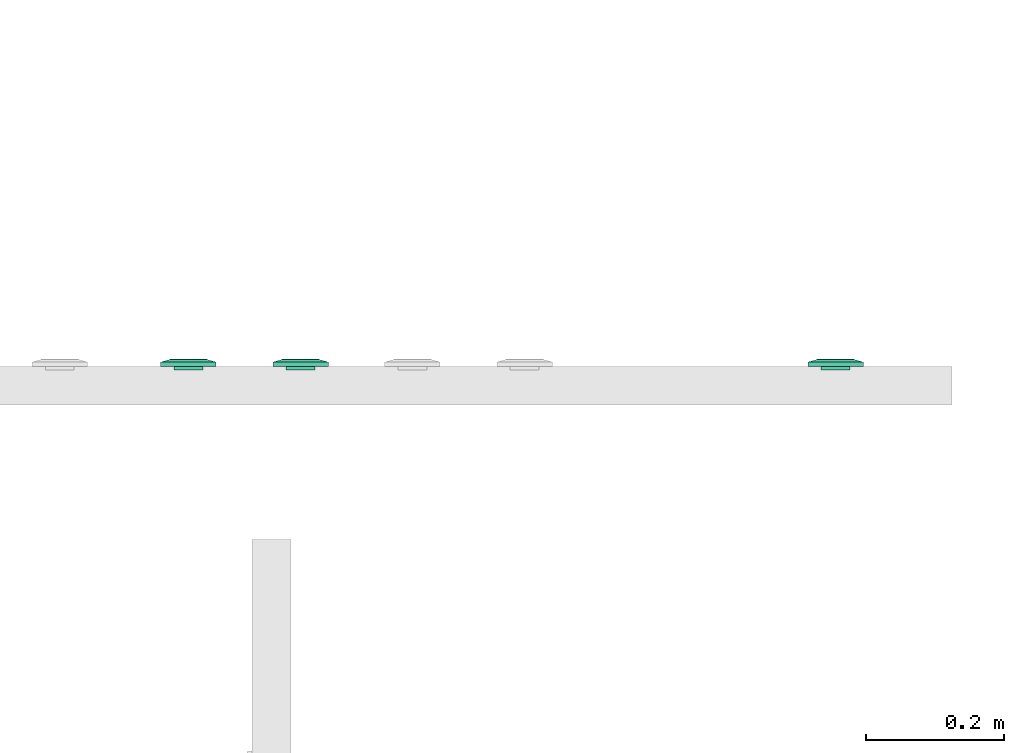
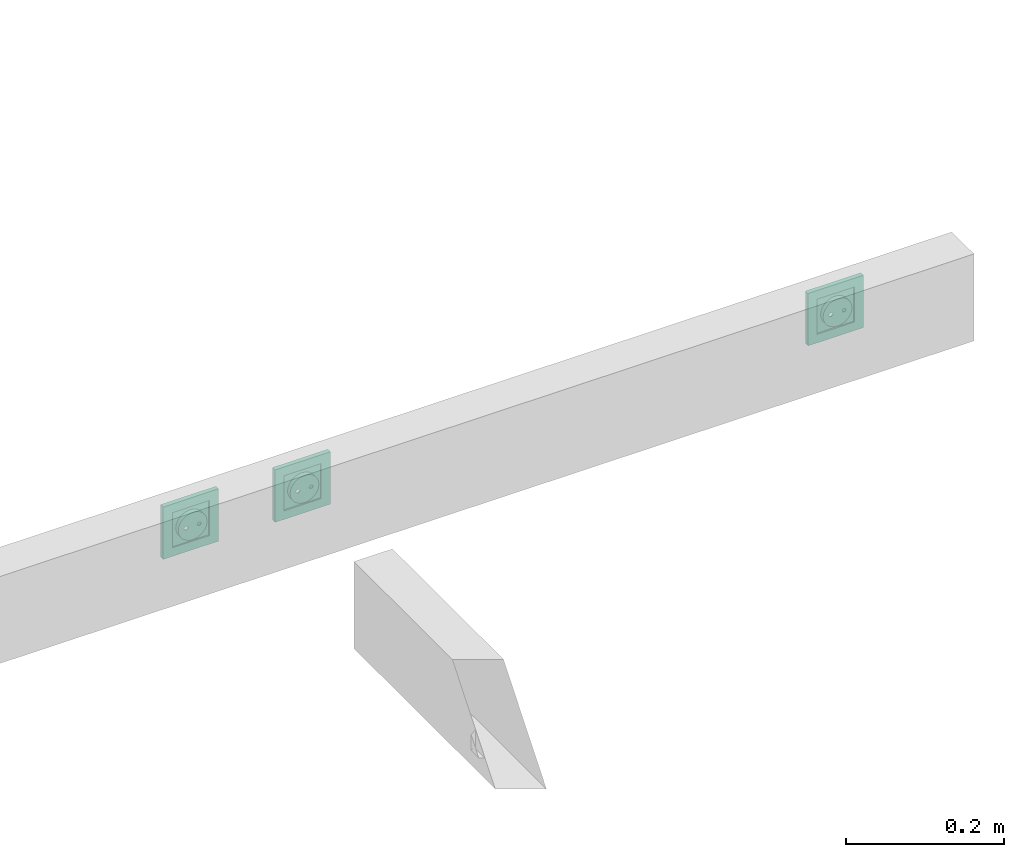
# One storey, part 31 of 166: 3 flow terminals.
"""IFC2X3 building model written with IfcOpenShell, lengths in metres."""

import ifcopenshell
import ifcopenshell.guid

model = None  # the IFC model being written
_history = None  # IfcOwnerHistory: only IFC2X3 demands one
_inside = {}  # id of a spatial element -> (the spatial element, [elements in it])
_under = {}  # id of a project, library or spatial element -> (it, [spatial elements below it])
_declared = {}  # id of a project -> (the project, [libraries it declares])
_typed = {}  # id of a type object -> (the type object, [elements of that type])
_made_of = {}  # id of a material, layer set ... -> (it, [elements and type objects made of it])


def new_model(schema):
    """Start an empty IFC model of exactly this schema.

    Asked for "IFC4X3", IfcOpenShell would pick the latest addendum, in which some entities
    have other attributes; the version numbers below select the first issue.
    IFC2X3 requires an IfcOwnerHistory on every rooted entity: one is made here for all.
    """
    global model, _history
    if schema == "IFC4X3":
        model = ifcopenshell.file(schema_version=(4, 3, 0, 0))
    else:
        model = ifcopenshell.file(schema=schema)
    _inside.clear()
    _under.clear()
    _declared.clear()
    _typed.clear()
    _made_of.clear()
    _history = None
    if model.schema == "IFC2X3":
        org = make("IfcOrganization", Name="unknown")
        user = make(
            "IfcPersonAndOrganization",
            ThePerson=make("IfcPerson", FamilyName="unknown"),
            TheOrganization=org,
        )
        app = make(
            "IfcApplication",
            ApplicationDeveloper=org,
            Version="unknown",
            ApplicationFullName="unknown",
            ApplicationIdentifier="unknown",
        )
        _history = make(
            "IfcOwnerHistory",
            OwningUser=user,
            OwningApplication=app,
            ChangeAction="ADDED",
            CreationDate=0,
        )
    return model


def make(cls, **values):
    """One entity of the class cls with the attributes given. An attribute that is None is left unset."""
    return model.create_entity(
        cls, **{name: value for name, value in values.items() if value is not None}
    )


def entity(cls, *values):
    """Any entity or typed value of the class cls, its attributes in the order of the schema. None: left unset."""
    e = model.create_entity(cls)
    for i, value in enumerate(values):
        if value is not None:
            e[i] = value
    return e


def rooted(cls, **values):
    """An entity with a GlobalId (a new one), such as an element, a storey or a relation."""
    return make(cls, GlobalId=ifcopenshell.guid.new(), OwnerHistory=_history, **values)


def si_unit(unit_type, name, prefix=None):
    """IfcSIUnit, for example si_unit("LENGTHUNIT", "METRE", prefix="MILLI")."""
    return make("IfcSIUnit", UnitType=unit_type, Prefix=prefix, Name=name)


def converted_unit(unit_type, name, factor, base, dimensions=None, offset=None):
    """IfcConversionBasedUnit, such as the inch: factor (a typed value) times the base unit."""
    return make(
        "IfcConversionBasedUnit"
        if offset is None
        else "IfcConversionBasedUnitWithOffset",
        ConversionOffset=offset,
        Dimensions=None
        if dimensions is None
        else entity("IfcDimensionalExponents", *dimensions),
        UnitType=unit_type,
        Name=name,
        ConversionFactor=make(
            "IfcMeasureWithUnit", ValueComponent=factor, UnitComponent=base
        ),
    )


def derived_unit(unit_type, elements):
    """IfcDerivedUnit: a product of units, each with its exponent."""
    return make(
        "IfcDerivedUnit",
        Elements=[
            make("IfcDerivedUnitElement", Unit=unit, Exponent=power)
            for unit, power in elements
        ],
        UnitType=unit_type,
    )


def assignment(units):
    """IfcUnitAssignment: the units of a project."""
    return None if units is None else make("IfcUnitAssignment", Units=units)


def point(xyz):
    """IfcCartesianPoint."""
    return None if xyz is None else make("IfcCartesianPoint", Coordinates=xyz)


def direction(xyz):
    """IfcDirection."""
    return None if xyz is None else make("IfcDirection", DirectionRatios=xyz)


def frame(location, z_axis=None, x_axis=None):
    """IfcAxis2Placement3D, a coordinate frame: its origin and axes. An axis left out is left unset."""
    return make(
        "IfcAxis2Placement3D",
        Location=point(location),
        Axis=direction(z_axis),
        RefDirection=direction(x_axis),
    )


def origin():
    """The frame at (0, 0, 0) with its axes left unset."""
    return frame((0.0, 0.0, 0.0))


def place(relative_to, where):
    """IfcLocalPlacement: puts the frame where relative to a parent placement (None: the world)."""
    return make(
        "IfcLocalPlacement", PlacementRelTo=relative_to, RelativePlacement=where
    )


def context(
    kind, dimensions, precision=None, world=None, true_north=None, identifier=None
):
    """IfcGeometricRepresentationContext, for example the 3D "Model" context."""
    return make(
        "IfcGeometricRepresentationContext",
        ContextIdentifier=identifier,
        ContextType=kind,
        CoordinateSpaceDimension=dimensions,
        Precision=precision,
        WorldCoordinateSystem=world,
        TrueNorth=true_north,
    )


def subcontext(parent, identifier, kind, view, scale=None):
    """IfcGeometricRepresentationSubContext, for example "Body" below "Model"."""
    return make(
        "IfcGeometricRepresentationSubContext",
        ContextIdentifier=identifier,
        ContextType=kind,
        ParentContext=parent,
        TargetScale=scale,
        TargetView=view,
    )


def project(units=None, contexts=None):
    """IfcProject with its units and contexts."""
    return rooted(
        "IfcProject",
        Name="project",
        RepresentationContexts=contexts,
        UnitsInContext=assignment(units),
    )


def spatial(cls, under=None, at=None, **own):
    """A site, building, storey or space (cls), placed at a placement, below another one or the project."""
    s = rooted(cls, ObjectPlacement=at, **own)
    if under is not None:
        _under.setdefault(under.id(), (under, []))[1].append(s)
    return s


def faces_of(points, faces, orient=None, outer=None):
    """IfcFace entities. A face is a list of loops; a loop is a list of indices into points, from 0.

    orient and outer hold one flag for each loop. By default every Orientation is true, the
    first loop of a face is its IfcFaceOuterBound and the others are IfcFaceBound.
    """
    made = []
    for i, loops in enumerate(faces):
        bounds = []
        for j, loop in enumerate(loops):
            is_outer = j == 0 if outer is None else outer[i][j]
            bounds.append(
                make(
                    "IfcFaceOuterBound" if is_outer else "IfcFaceBound",
                    Bound=make("IfcPolyLoop", Polygon=[points[k] for k in loop]),
                    Orientation=True if orient is None else orient[i][j],
                )
            )
        made.append(make("IfcFace", Bounds=bounds))
    return made


def face_set(faces, orient=None, outer=None):
    """The faces of one IfcConnectedFaceSet. surface_model builds it on its shared points."""
    return ("IfcConnectedFaceSet", faces, orient, outer)


def surface_model(cls, points, shells):
    """IfcFaceBasedSurfaceModel or IfcShellBasedSurfaceModel (cls): surfaces that need not close."""
    shared = [point(p) for p in points]
    made = [make(c, CfsFaces=faces_of(shared, fs, o, b)) for c, fs, o, b in shells]
    if cls == "IfcFaceBasedSurfaceModel":
        return make(cls, FbsmFaces=made)
    return make(cls, SbsmBoundary=made)


def shape(context_of_items, identifier, shape_type, items):
    """IfcShapeRepresentation: the items that make up one representation, for example the "Body"."""
    return make(
        "IfcShapeRepresentation",
        ContextOfItems=context_of_items,
        RepresentationIdentifier=identifier,
        RepresentationType=shape_type,
        Items=items,
    )


def source(mapping_origin, context_of_items, identifier, shape_type, items):
    """IfcRepresentationMap: a shape defined once, which mapped items show again and again."""
    return make(
        "IfcRepresentationMap",
        MappingOrigin=mapping_origin,
        MappedRepresentation=shape(context_of_items, identifier, shape_type, items),
    )


def transform(
    local_origin,
    x_axis=None,
    y_axis=None,
    z_axis=None,
    scale=None,
    scale2=None,
    scale3=None,
    uniform=True,
):
    """IfcCartesianTransformationOperator3D, or its non-uniform kind. x_axis, y_axis, z_axis: its Axis1, 2, 3."""
    if uniform:
        return make(
            "IfcCartesianTransformationOperator3D",
            Axis1=direction(x_axis),
            Axis2=direction(y_axis),
            LocalOrigin=point(local_origin),
            Scale=scale,
            Axis3=direction(z_axis),
        )
    return make(
        "IfcCartesianTransformationOperator3DnonUniform",
        Axis1=direction(x_axis),
        Axis2=direction(y_axis),
        LocalOrigin=point(local_origin),
        Scale=scale,
        Axis3=direction(z_axis),
        Scale2=scale2,
        Scale3=scale3,
    )


def mapped(mapping_source, mapping_target):
    """IfcMappedItem: shows the shape of a source again, moved by a transform."""
    return make(
        "IfcMappedItem", MappingSource=mapping_source, MappingTarget=mapping_target
    )


def made_of(thing, what):
    """Note that an element or type object is made of a material, layer set ...; save() writes the relation."""
    if what is not None:
        _made_of.setdefault(what.id(), (what, []))[1].append(thing)
    return thing


def type_object(cls, material=None, **own):
    """A type object (cls), such as IfcWallType, which elements share."""
    return made_of(rooted(cls, **own), material)


def type_shapes(of_type, sources):
    """Give a type object the sources (RepresentationMaps) that its elements show as mapped items."""
    of_type.RepresentationMaps = sources


def element(
    cls,
    number,
    at=None,
    inside=None,
    cuts=None,
    type_object=None,
    material=None,
    context=None,
    identifier="Body",
    shape_type=None,
    held_by="IfcProductDefinitionShape",
    body=None,
    shapes=None,
    **own,
):
    """One element of the class cls, such as IfcWall. Its Tag is "e" and its number.

    at: its placement. inside: the storey or other place that contains it. cuts: it is an
    opening in that element (IfcRelVoidsElement). A single representation is given by context,
    identifier, shape_type and body (its items); several are given by shapes. held_by: the class
    of the entity that holds the representations. save() writes the other relations.
    """
    e = rooted(cls, Tag="e%d" % number, ObjectPlacement=at, **own)
    if body is not None:
        shapes = [shape(context, identifier, shape_type, body)]
    if shapes is not None:
        e.Representation = make(held_by, Representations=shapes)
    if inside is not None:
        _inside.setdefault(inside.id(), (inside, []))[1].append(e)
    if cuts is not None:
        rooted(
            "IfcRelVoidsElement", RelatingBuildingElement=cuts, RelatedOpeningElement=e
        )
    if type_object is not None:
        _typed.setdefault(type_object.id(), (type_object, []))[1].append(e)
    return made_of(e, material)


def aggregate(whole, parts):
    """IfcRelAggregates: a whole, such as a stair, and the parts it consists of."""
    return rooted("IfcRelAggregates", RelatingObject=whole, RelatedObjects=parts)


def save(model, path):
    """Write the relations noted so far, then the file.

    IfcRelAggregates (storeys below a building ...), IfcRelContainedInSpatialStructure (elements
    in a storey), IfcRelDefinesByType, IfcRelAssociatesMaterial and IfcRelDeclares: one each for
    every whole, place, type object, material and project.
    """
    for whole, parts in _under.values():
        aggregate(whole, parts)
    for where, things in _inside.values():
        rooted(
            "IfcRelContainedInSpatialStructure",
            RelatedElements=things,
            RelatingStructure=where,
        )
    for kind, things in _typed.values():
        rooted("IfcRelDefinesByType", RelatedObjects=things, RelatingType=kind)
    for what, things in _made_of.values():
        rooted("IfcRelAssociatesMaterial", RelatedObjects=things, RelatingMaterial=what)
    for by, libraries in _declared.values():
        rooted("IfcRelDeclares", RelatingContext=by, RelatedDefinitions=libraries)
    model.write(path)


model = new_model("IFC2X3")

# Units and contexts
model_context = context("Model", 3, precision=1e-05, world=origin(), true_north=direction((6.12303176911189e-17, 1.0)))
body_context = subcontext(model_context, "Body", "Model", "MODEL_VIEW")
ifc_project = project(units=[si_unit("LENGTHUNIT", "METRE"), si_unit("AREAUNIT", "SQUARE_METRE"), si_unit("VOLUMEUNIT", "CUBIC_METRE"), converted_unit("PLANEANGLEUNIT", "DEGREE", entity("IfcRatioMeasure", 0.0174532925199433), si_unit("PLANEANGLEUNIT", "RADIAN"), dimensions=[0, 0, 0, 0, 0, 0, 0]), si_unit("MASSUNIT", "GRAM", prefix="KILO"), derived_unit("MASSDENSITYUNIT", [(si_unit("MASSUNIT", "GRAM", prefix="KILO"), 1), (si_unit("LENGTHUNIT", "METRE"), -3)]), si_unit("TIMEUNIT", "SECOND"), si_unit("FREQUENCYUNIT", "HERTZ"), si_unit("THERMODYNAMICTEMPERATUREUNIT", "DEGREE_CELSIUS"), derived_unit("THERMALTRANSMITTANCEUNIT", [(si_unit("MASSUNIT", "GRAM", prefix="KILO"), 1), (si_unit("THERMODYNAMICTEMPERATUREUNIT", "KELVIN"), -1), (si_unit("TIMEUNIT", "SECOND"), -3)]), derived_unit("VOLUMETRICFLOWRATEUNIT", [(si_unit("LENGTHUNIT", "METRE"), 3), (si_unit("TIMEUNIT", "SECOND"), -1)]), si_unit("ELECTRICCURRENTUNIT", "AMPERE"), si_unit("ELECTRICVOLTAGEUNIT", "VOLT"), si_unit("POWERUNIT", "WATT"), si_unit("FORCEUNIT", "NEWTON"), si_unit("ILLUMINANCEUNIT", "LUX"), si_unit("LUMINOUSFLUXUNIT", "LUMEN"), si_unit("LUMINOUSINTENSITYUNIT", "CANDELA"), derived_unit("USERDEFINED", [(si_unit("MASSUNIT", "GRAM", prefix="KILO"), -1), (si_unit("LENGTHUNIT", "METRE"), -2), (si_unit("TIMEUNIT", "SECOND"), 3), (si_unit("LUMINOUSFLUXUNIT", "LUMEN"), 1)]), derived_unit("LINEARVELOCITYUNIT", [(si_unit("LENGTHUNIT", "METRE"), 1), (si_unit("TIMEUNIT", "SECOND"), -1)]), si_unit("PRESSUREUNIT", "PASCAL"), derived_unit("USERDEFINED", [(si_unit("LENGTHUNIT", "METRE"), -2), (si_unit("MASSUNIT", "GRAM", prefix="KILO"), 1), (si_unit("TIMEUNIT", "SECOND"), -2)])], contexts=[model_context])

# Site, building, storey
site_placement = place(None, origin())
site = spatial("IfcSite", under=ifc_project, at=site_placement, Name="Default", CompositionType="ELEMENT")
building_placement = place(site_placement, origin())
building = spatial("IfcBuilding", under=site, at=building_placement, CompositionType="ELEMENT")
storey_placement = place(building_placement, frame((0.0, 0.0, 4.27)))
storey = spatial("IfcBuildingStorey", under=building, at=storey_placement, Name="01", CompositionType="ELEMENT", Elevation=4.27)

# Flow terminals
light_fixture_type = type_object("IfcLightFixtureType", Name="PC IP20", PredefinedType="NOTDEFINED")
shared_shape = source(origin(), body_context, "Body", "SurfaceModel", [
    surface_model("IfcFaceBasedSurfaceModel", [(-0.00225000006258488, 0.0127499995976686, 0.00949633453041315), (0.0, 0.0104999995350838, 0.00949633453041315), (0.0, 0.0115376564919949, 0.0101656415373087), (0.0, 0.0139623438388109, 0.0101656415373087), (0.0, 0.0144589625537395, 0.00984531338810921), (0.0, 0.0121178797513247, 0.0102778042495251), (0.0, 0.0133821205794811, 0.0102778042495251), (0.0, 0.0127499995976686, 0.010399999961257), (0.0, 0.0149999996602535, 0.00949633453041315), (0.00225000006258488, 0.0127499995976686, 0.00949633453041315), (0.0, 0.0110410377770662, 0.00984531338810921), (0.0, 0.0127499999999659, 0.00949633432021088), (0.00225000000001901, 0.0127499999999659, 0.00949633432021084), (0.00217333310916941, 0.0121676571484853, 0.00949633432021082), (0.00194855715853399, 0.0116249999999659, 0.00949633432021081), (0.00159099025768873, 0.0111590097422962, 0.00949633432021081), (0.001125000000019, 0.010801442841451, 0.00949633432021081), (0.00058234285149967, 0.0105766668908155, 0.00949633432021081), (0.0, 0.0104999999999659, 0.00949633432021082), (-0.000582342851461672, 0.0105766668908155, 0.00949633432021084), (-0.001124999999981, 0.010801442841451, 0.00949633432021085), (-0.00159099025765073, 0.0111590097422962, 0.00949633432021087), (-0.00194855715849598, 0.011624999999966, 0.00949633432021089), (-0.0021733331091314, 0.0121676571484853, 0.00949633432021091), (-0.00224999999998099, 0.012749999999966, 0.00949633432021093), (-0.00217333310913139, 0.0133323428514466, 0.00949633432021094), (-0.00194855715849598, 0.013874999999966, 0.00949633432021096), (-0.00159099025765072, 0.0143409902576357, 0.00949633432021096), (-0.00112499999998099, 0.0146985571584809, 0.00949633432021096), (-0.00058234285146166, 0.0149233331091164, 0.00949633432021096), (0.0, 0.0149999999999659, 0.00949633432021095), (0.000582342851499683, 0.0149233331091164, 0.00949633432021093), (0.00112500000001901, 0.0146985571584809, 0.00949633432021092), (0.00159099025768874, 0.0143409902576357, 0.00949633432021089), (0.001948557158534, 0.0138749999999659, 0.00949633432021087), (0.00217333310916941, 0.0133323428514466, 0.00949633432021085), (0.00225000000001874, 0.0127499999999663, -0.00360000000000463), (0.00217333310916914, 0.0121676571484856, -0.00360000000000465), (0.00194855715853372, 0.0116249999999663, -0.00360000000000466), (0.00159099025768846, 0.0111590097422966, -0.00360000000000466), (0.00112500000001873, 0.0108014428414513, -0.00360000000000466), (0.000582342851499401, 0.0105766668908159, -0.00360000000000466), (0.0, 0.0104999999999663, -0.00360000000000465), (-0.000582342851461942, 0.0105766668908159, -0.00360000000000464), (-0.00112499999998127, 0.0108014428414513, -0.00360000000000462), (-0.001590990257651, 0.0111590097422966, -0.0036000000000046), (-0.00194855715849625, 0.0116249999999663, -0.00360000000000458), (-0.00217333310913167, 0.0121676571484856, -0.00360000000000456), (-0.00224999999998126, 0.0127499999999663, -0.00360000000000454), (-0.00217333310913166, 0.013332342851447, -0.00360000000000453), (-0.00194855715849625, 0.0138749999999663, -0.00360000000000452), (-0.00159099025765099, 0.014340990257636, -0.00360000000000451), (-0.00112499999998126, 0.0146985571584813, -0.00360000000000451), (-0.000582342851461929, 0.0149233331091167, -0.00360000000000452), (0.0, 0.0149999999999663, -0.00360000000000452), (0.000582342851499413, 0.0149233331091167, -0.00360000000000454), (0.00112500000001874, 0.0146985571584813, -0.00360000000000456), (0.00159099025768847, 0.014340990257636, -0.00360000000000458), (0.00194855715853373, 0.0138749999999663, -0.0036000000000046), (0.00217333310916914, 0.013332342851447, -0.00360000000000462), (0.0270000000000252, 0.026999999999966, 0.0113999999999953), (-0.0269999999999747, 0.026999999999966, 0.0113999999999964), (-0.0269999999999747, -0.0270000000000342, 0.0113999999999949), (0.0270000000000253, -0.0270000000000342, 0.0113999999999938), (-0.0199999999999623, 0.0, 0.0113999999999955), (-0.0193185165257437, -0.00517638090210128, 0.0113999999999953), (-0.0173205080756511, -0.0100000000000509, 0.0113999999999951), (-0.0141421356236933, -0.0141421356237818, 0.011399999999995), (-0.00999999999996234, -0.0173205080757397, 0.0113999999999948), (-0.00517638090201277, -0.0193185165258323, 0.0113999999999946), (0.0, -0.0200000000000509, 0.0113999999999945), (0.00517638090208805, -0.0193185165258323, 0.0113999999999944), (0.0100000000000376, -0.0173205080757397, 0.0113999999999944), (0.0141421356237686, -0.0141421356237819, 0.0113999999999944), (0.0173205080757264, -0.010000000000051, 0.0113999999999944), (0.0193185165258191, -0.00517638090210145, 0.0113999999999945), (0.0200000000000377, 0.0, 0.0113999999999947), (0.0193185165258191, 0.00517638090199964, 0.0113999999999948), (0.0173205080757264, 0.0099999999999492, 0.011399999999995), (0.0141421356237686, 0.0141421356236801, 0.0113999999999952), (0.0100000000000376, 0.0173205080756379, 0.0113999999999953), (0.00517638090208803, 0.0193185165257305, 0.0113999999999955), (0.0, 0.0199999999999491, 0.0113999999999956), (-0.00517638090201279, 0.0193185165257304, 0.0113999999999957), (-0.00999999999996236, 0.0173205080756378, 0.0113999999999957), (-0.0141421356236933, 0.01414213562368, 0.0113999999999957), (-0.0173205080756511, 0.00999999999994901, 0.0113999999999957), (-0.0193185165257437, 0.00517638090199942, 0.0113999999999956), (0.0270000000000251, 0.0269999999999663, 0.00199999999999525), (0.0270000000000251, -0.0270000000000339, 0.00199999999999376), (-0.0269999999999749, -0.0270000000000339, 0.00199999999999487), (-0.0269999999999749, 0.0269999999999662, 0.00199999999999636), (0.0210000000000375, 0.0, 0.00199999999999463), (0.0202844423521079, -0.00543519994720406, 0.00199999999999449), (0.0181865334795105, -0.0105000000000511, 0.0019999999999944), (0.0148492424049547, -0.0148492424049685, 0.00199999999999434), (0.0105000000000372, -0.0181865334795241, 0.00199999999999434), (0.0054351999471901, -0.0202844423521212, 0.00199999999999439), (0.0, -0.0210000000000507, 0.00199999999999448), (-0.00543519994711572, -0.020284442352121, 0.00199999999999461), (-0.0104999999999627, -0.0181865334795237, 0.00199999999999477), (-0.0148492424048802, -0.014849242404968, 0.00199999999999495), (-0.0181865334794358, -0.0105000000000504, 0.00199999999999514), (-0.020284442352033, -0.00543519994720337, 0.00199999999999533), (-0.0209999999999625, 0.0, 0.00199999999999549), (-0.0202844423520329, 0.0054351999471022, 0.00199999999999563), (-0.0181865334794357, 0.0104999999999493, 0.00199999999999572), (-0.01484924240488, 0.0148492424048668, 0.00199999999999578), (-0.0104999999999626, 0.0181865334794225, 0.00199999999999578), (-0.00543519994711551, 0.0202844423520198, 0.00199999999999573), (0.0, 0.0209999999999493, 0.00199999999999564), (0.00543519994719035, 0.0202844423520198, 0.00199999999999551), (0.0105000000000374, 0.0181865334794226, 0.00199999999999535), (0.0148492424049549, 0.0148492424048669, 0.00199999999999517), (0.0181865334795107, 0.0104999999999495, 0.00199999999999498), (0.0202844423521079, 0.00543519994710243, 0.00199999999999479), (0.0200000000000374, 0.0, -0.00360000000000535), (0.0193185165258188, -0.00517638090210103, -0.00360000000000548), (0.0173205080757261, -0.0100000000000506, -0.00360000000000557), (0.0141421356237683, -0.0141421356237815, -0.00360000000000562), (0.0100000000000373, -0.0173205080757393, -0.00360000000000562), (0.00517638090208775, -0.0193185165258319, -0.00360000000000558), (0.0, -0.0200000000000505, -0.00360000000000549), (-0.00517638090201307, -0.0193185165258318, -0.00360000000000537), (-0.00999999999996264, -0.0173205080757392, -0.00360000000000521), (-0.0141421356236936, -0.0141421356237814, -0.00360000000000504), (-0.0173205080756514, -0.0100000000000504, -0.00360000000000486), (-0.019318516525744, -0.00517638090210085, -0.00360000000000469), (-0.0199999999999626, 0.0, -0.00360000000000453), (-0.0193185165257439, 0.00517638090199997, -0.0036000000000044), (-0.0173205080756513, 0.00999999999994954, -0.00360000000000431), (-0.0141421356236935, 0.0141421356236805, -0.00360000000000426), (-0.00999999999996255, 0.0173205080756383, -0.00360000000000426), (-0.00517638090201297, 0.0193185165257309, -0.0036000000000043), (0.0, 0.0199999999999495, -0.00360000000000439), (0.00517638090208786, 0.0193185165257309, -0.00360000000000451), (0.0100000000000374, 0.0173205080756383, -0.00360000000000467), (0.0141421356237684, 0.0141421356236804, -0.00360000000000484), (0.0173205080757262, 0.0099999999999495, -0.00360000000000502), (0.0193185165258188, 0.00517638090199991, -0.00360000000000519), (-0.0123499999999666, 0.0, -0.00360000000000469), (-0.0122562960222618, -0.000711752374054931, -0.00360000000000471), (-0.0119815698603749, -0.00137500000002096, -0.00360000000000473), (-0.0115445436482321, -0.00194454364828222, -0.00360000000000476), (-0.0109749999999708, -0.00238156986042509, -0.00360000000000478), (-0.0103117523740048, -0.00265629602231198, -0.0036000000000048), (-0.00959999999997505, -0.00275000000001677, -0.00360000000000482), (-0.0088882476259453, -0.00265629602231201, -0.00360000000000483), (-0.00822499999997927, -0.00238156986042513, -0.00360000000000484), (-0.00765545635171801, -0.00194454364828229, -0.00360000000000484), (-0.00721843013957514, -0.00137500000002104, -0.00360000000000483), (-0.00694370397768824, -0.000711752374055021, -0.00360000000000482), (-0.00684999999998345, 0.0, -0.0036000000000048), (-0.00694370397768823, 0.000711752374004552, -0.00360000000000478), (-0.00721843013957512, 0.00137499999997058, -0.00360000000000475), (-0.00765545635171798, 0.00194454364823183, -0.00360000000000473), (-0.00822499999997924, 0.00238156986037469, -0.0036000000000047), (-0.00888824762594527, 0.00265629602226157, -0.00360000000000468), (-0.00959999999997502, 0.00274999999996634, -0.00360000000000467), (-0.0103117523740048, 0.00265629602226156, -0.00360000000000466), (-0.0109749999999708, 0.00238156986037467, -0.00360000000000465), (-0.011544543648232, 0.00194454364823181, -0.00360000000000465), (-0.0119815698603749, 0.00137499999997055, -0.00360000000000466), (-0.0122562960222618, 0.000711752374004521, -0.00360000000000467), (0.00685000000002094, 0.0, -0.00360000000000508), (0.0069437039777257, -0.00071175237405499, -0.0036000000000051), (0.00721843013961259, -0.00137500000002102, -0.00360000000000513), (0.00765545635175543, -0.00194454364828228, -0.00360000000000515), (0.00822500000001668, -0.00238156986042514, -0.00360000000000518), (0.00888824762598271, -0.00265629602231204, -0.0036000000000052), (0.00960000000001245, -0.00275000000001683, -0.00360000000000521), (0.0103117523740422, -0.00265629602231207, -0.00360000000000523), (0.0109750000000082, -0.00238156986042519, -0.00360000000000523), (0.0115445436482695, -0.00194454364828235, -0.00360000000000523), (0.0119815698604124, -0.0013750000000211, -0.00360000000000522), (0.0122562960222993, -0.00071175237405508, -0.00360000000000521), (0.012350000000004, 0.0, -0.00360000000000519), (0.0122562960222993, 0.000711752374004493, -0.00360000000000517), (0.0119815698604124, 0.00137499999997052, -0.00360000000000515), (0.0115445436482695, 0.00194454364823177, -0.00360000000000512), (0.0109750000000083, 0.00238156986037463, -0.0036000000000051), (0.0103117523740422, 0.00265629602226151, -0.00360000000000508), (0.00960000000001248, 0.00274999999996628, -0.00360000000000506), (0.00888824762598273, 0.0026562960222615, -0.00360000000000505), (0.0082250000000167, 0.00238156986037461, -0.00360000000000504), (0.00765545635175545, 0.00194454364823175, -0.00360000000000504), (0.0072184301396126, 0.00137499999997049, -0.00360000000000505), (0.00694370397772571, 0.000711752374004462, -0.00360000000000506), (0.0210000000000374, 0.0, -0.00460000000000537), (0.0202844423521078, -0.00543519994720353, -0.00460000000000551), (0.0181865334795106, -0.0105000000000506, -0.0046000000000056), (0.0148492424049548, -0.0148492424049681, -0.00460000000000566), (0.0105000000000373, -0.0181865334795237, -0.00460000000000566), (0.00543519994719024, -0.0202844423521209, -0.00460000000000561), (0.0, -0.0210000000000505, -0.00460000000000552), (-0.00543519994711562, -0.0202844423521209, -0.00460000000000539), (-0.0104999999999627, -0.0181865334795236, -0.00460000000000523), (-0.0148492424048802, -0.0148492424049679, -0.00460000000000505), (-0.0181865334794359, -0.0105000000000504, -0.00460000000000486), (-0.0202844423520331, -0.00543519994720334, -0.00460000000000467), (-0.0209999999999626, 0.0, -0.00460000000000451), (-0.020284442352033, 0.00543519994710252, -0.00460000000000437), (-0.0181865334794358, 0.0104999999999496, -0.00460000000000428), (-0.0148492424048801, 0.0148492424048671, -0.00460000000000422), (-0.0104999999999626, 0.0181865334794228, -0.00460000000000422), (-0.00543519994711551, 0.02028444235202, -0.00460000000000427), (0.0, 0.0209999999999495, -0.00460000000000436), (0.00543519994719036, 0.02028444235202, -0.00460000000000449), (0.0105000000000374, 0.0181865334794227, -0.00460000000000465), (0.0148492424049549, 0.014849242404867, -0.00460000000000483), (0.0181865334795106, 0.0104999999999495, -0.00460000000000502), (0.0202844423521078, 0.00543519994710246, -0.00460000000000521), (-0.00684999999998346, 0.0, -0.0046000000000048), (-0.00694370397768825, 0.000711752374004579, -0.00460000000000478), (-0.00721843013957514, 0.00137499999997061, -0.00460000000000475), (-0.007655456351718, 0.00194454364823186, -0.00460000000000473), (-0.00822499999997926, 0.00238156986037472, -0.0046000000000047), (-0.00888824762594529, 0.0026562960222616, -0.00460000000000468), (-0.00959999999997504, 0.00274999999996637, -0.00460000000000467), (-0.0103117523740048, 0.00265629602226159, -0.00460000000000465), (-0.0109749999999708, 0.0023815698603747, -0.00460000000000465), (-0.0115445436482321, 0.00194454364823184, -0.00460000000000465), (-0.0119815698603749, 0.00137499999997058, -0.00460000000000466), (-0.0122562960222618, 0.000711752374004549, -0.00460000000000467), (-0.0123499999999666, 0.0, -0.00460000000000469), (-0.0122562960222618, -0.000711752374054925, -0.00460000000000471), (-0.0119815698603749, -0.00137500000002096, -0.00460000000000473), (-0.0115445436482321, -0.00194454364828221, -0.00460000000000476), (-0.0109749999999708, -0.00238156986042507, -0.00460000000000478), (-0.0103117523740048, -0.00265629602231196, -0.0046000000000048), (-0.00959999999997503, -0.00275000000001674, -0.00460000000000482), (-0.00888824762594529, -0.00265629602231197, -0.00460000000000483), (-0.00822499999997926, -0.00238156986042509, -0.00460000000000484), (-0.007655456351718, -0.00194454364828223, -0.00460000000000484), (-0.00721843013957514, -0.00137500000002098, -0.00460000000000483), (-0.00694370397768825, -0.000711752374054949, -0.00460000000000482), (0.012350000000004, 0.0, -0.00460000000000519), (0.0122562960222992, 0.000711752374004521, -0.00460000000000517), (0.0119815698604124, 0.00137499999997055, -0.00460000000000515), (0.0115445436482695, 0.0019445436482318, -0.00460000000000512), (0.0109750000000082, 0.00238156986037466, -0.0046000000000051), (0.0103117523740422, 0.00265629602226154, -0.00460000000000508), (0.00960000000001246, 0.00274999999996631, -0.00460000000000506), (0.00888824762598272, 0.00265629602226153, -0.00460000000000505), (0.00822500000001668, 0.00238156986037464, -0.00460000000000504), (0.00765545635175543, 0.00194454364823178, -0.00460000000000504), (0.00721843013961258, 0.00137499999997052, -0.00460000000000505), (0.00694370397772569, 0.00071175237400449, -0.00460000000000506), (0.00685000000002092, 0.0, -0.00460000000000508), (0.00694370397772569, -0.000711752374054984, -0.0046000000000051), (0.00721843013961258, -0.00137500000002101, -0.00460000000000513), (0.00765545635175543, -0.00194454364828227, -0.00460000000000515), (0.00822500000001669, -0.00238156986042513, -0.00460000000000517), (0.00888824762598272, -0.00265629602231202, -0.0046000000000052), (0.00960000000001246, -0.0027500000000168, -0.00460000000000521), (0.0103117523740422, -0.00265629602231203, -0.00460000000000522), (0.0109750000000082, -0.00238156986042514, -0.00460000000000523), (0.0115445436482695, -0.00194454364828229, -0.00460000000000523), (0.0119815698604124, -0.00137500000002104, -0.00460000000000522), (0.0122562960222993, -0.000711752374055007, -0.00460000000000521), (0.040350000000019, 0.0403499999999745, 0.00659999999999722), (0.040350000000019, -0.0403500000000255, 0.00659999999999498), (-0.0403499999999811, -0.0403500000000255, 0.00659999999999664), (-0.0403499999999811, 0.0403499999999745, 0.00659999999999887), (0.027000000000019, 0.0269999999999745, 0.00659999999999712), (-0.0269999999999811, 0.0269999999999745, 0.00659999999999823), (-0.026999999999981, -0.0270000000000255, 0.00659999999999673), (0.027000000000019, -0.0270000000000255, 0.00659999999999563), (0.027000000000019, 0.0269999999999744, 0.0103999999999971), (-0.026999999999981, 0.0269999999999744, 0.0103999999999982), (-0.026999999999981, -0.0270000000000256, 0.0103999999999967), (0.027000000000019, -0.0270000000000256, 0.0103999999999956), (0.040350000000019, 0.0403499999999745, 0.00659999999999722), (0.040350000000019, -0.0403500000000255, 0.00659999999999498), (-0.0403499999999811, -0.0403500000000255, 0.00659999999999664), (-0.0403499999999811, 0.0403499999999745, 0.00659999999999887), (-0.0269999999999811, 0.0269999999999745, 0.00659999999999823), (-0.0269999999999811, -0.0270000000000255, 0.00659999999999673), (0.0270000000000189, -0.0270000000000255, 0.00659999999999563), (0.0270000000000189, 0.0269999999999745, 0.00659999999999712), (0.0403500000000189, 0.0403499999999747, 0.0), (0.0403500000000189, -0.0403500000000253, 0.0), (-0.0403499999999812, -0.0403500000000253, 0.0), (-0.0403499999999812, 0.0403499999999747, 0.0), (0.0270000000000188, 0.0269999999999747, 0.0), (-0.0269999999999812, 0.0269999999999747, 0.0), (-0.0269999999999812, -0.0270000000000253, 0.0), (0.0270000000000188, -0.0270000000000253, 0.0)], [face_set([[[0, 1, 2]], [[3, 4, 2, 5]], [[6, 3, 5, 7]], [[2, 4, 0]], [[4, 8, 0]], [[3, 9, 8]], [[1, 9, 10]], [[2, 3, 6, 7]], [[3, 10, 9]], [[2, 10, 3]], [[11, 1, 0, 8]], [[11, 8, 9, 1]]]), face_set([[[12, 13, 14, 15, 16, 17, 18, 19, 20, 21, 22, 23, 24, 25, 26, 27, 28, 29, 30, 31, 32, 33, 34, 35]], [[36, 37, 38, 39, 40, 41, 42, 43, 44, 45, 46, 47, 48, 49, 50, 51, 52, 53, 54, 55, 56, 57, 58, 59]], [[48, 47, 23, 24]], [[47, 46, 22, 23]], [[45, 44, 20, 21]], [[46, 45, 21, 22]], [[44, 43, 19, 20]], [[18, 19, 43, 42]], [[42, 41, 17, 18]], [[41, 40, 16, 17]], [[39, 38, 14, 15]], [[40, 39, 15, 16]], [[38, 37, 13, 14]], [[12, 13, 37, 36]], [[36, 59, 35, 12]], [[59, 58, 34, 35]], [[57, 56, 32, 33]], [[58, 57, 33, 34]], [[56, 55, 31, 32]], [[30, 31, 55, 54]], [[54, 53, 29, 30]], [[53, 52, 28, 29]], [[51, 50, 26, 27]], [[52, 51, 27, 28]], [[50, 49, 25, 26]], [[24, 25, 49, 48]]]), face_set([[[60, 61, 62, 63], [64, 65, 66, 67, 68, 69, 70, 71, 72, 73, 74, 75, 76, 77, 78, 79, 80, 81, 82, 83, 84, 85, 86, 87]], [[88, 89, 90, 91], [92, 93, 94, 95, 96, 97, 98, 99, 100, 101, 102, 103, 104, 105, 106, 107, 108, 109, 110, 111, 112, 113, 114, 115]], [[61, 60, 88, 91]], [[62, 61, 91, 90]], [[63, 62, 90, 89]], [[60, 63, 89, 88]], [[116, 117, 118, 119, 120, 121, 122, 123, 124, 125, 126, 127, 128, 129, 130, 131, 132, 133, 134, 135, 136, 137, 138, 139], [140, 141, 142, 143, 144, 145, 146, 147, 148, 149, 150, 151, 152, 153, 154, 155, 156, 157, 158, 159, 160, 161, 162, 163], [164, 165, 166, 167, 168, 169, 170, 171, 172, 173, 174, 175, 176, 177, 178, 179, 180, 181, 182, 183, 184, 185, 186, 187]], [[64, 128, 127, 65]], [[65, 127, 126, 66]], [[67, 125, 124, 68]], [[66, 126, 125, 67]], [[68, 124, 123, 69]], [[122, 70, 69, 123]], [[70, 122, 121, 71]], [[71, 121, 120, 72]], [[73, 119, 118, 74]], [[72, 120, 119, 73]], [[74, 118, 117, 75]], [[116, 76, 75, 117]], [[76, 116, 139, 77]], [[77, 139, 138, 78]], [[79, 137, 136, 80]], [[78, 138, 137, 79]], [[80, 136, 135, 81]], [[134, 82, 81, 135]], [[82, 134, 133, 83]], [[83, 133, 132, 84]], [[84, 132, 131, 85]], [[85, 131, 130, 86]], [[130, 129, 87, 86]], [[64, 87, 129, 128]], [[188, 189, 190, 191, 192, 193, 194, 195, 196, 197, 198, 199, 200, 201, 202, 203, 204, 205, 206, 207, 208, 209, 210, 211], [212, 213, 214, 215, 216, 217, 218, 219, 220, 221, 222, 223, 224, 225, 226, 227, 228, 229, 230, 231, 232, 233, 234, 235], [236, 237, 238, 239, 240, 241, 242, 243, 244, 245, 246, 247, 248, 249, 250, 251, 252, 253, 254, 255, 256, 257, 258, 259]], [[200, 199, 103, 104]], [[199, 198, 102, 103]], [[197, 196, 100, 101]], [[198, 197, 101, 102]], [[196, 195, 99, 100]], [[98, 99, 195, 194]], [[194, 193, 97, 98]], [[193, 192, 96, 97]], [[191, 190, 94, 95]], [[192, 191, 95, 96]], [[190, 189, 93, 94]], [[92, 93, 189, 188]], [[188, 211, 115, 92]], [[211, 210, 114, 115]], [[209, 208, 112, 113]], [[210, 209, 113, 114]], [[208, 207, 111, 112]], [[110, 111, 207, 206]], [[206, 205, 109, 110]], [[205, 204, 108, 109]], [[203, 202, 106, 107]], [[204, 203, 107, 108]], [[202, 201, 105, 106]], [[104, 105, 201, 200]], [[141, 225, 226, 142]], [[140, 224, 225, 141]], [[144, 228, 229, 145]], [[143, 227, 228, 144]], [[142, 226, 227, 143]], [[230, 146, 145, 229]], [[149, 233, 232, 148]], [[148, 232, 231, 147]], [[152, 212, 235, 151]], [[151, 235, 234, 150]], [[150, 234, 233, 149]], [[146, 230, 231, 147]], [[154, 214, 213, 153]], [[153, 213, 212, 152]], [[157, 217, 216, 156]], [[156, 216, 215, 155]], [[155, 215, 214, 154]], [[218, 158, 157, 217]], [[160, 220, 221, 161]], [[159, 219, 220, 160]], [[163, 223, 224, 140]], [[162, 222, 223, 163]], [[161, 221, 222, 162]], [[158, 218, 219, 159]], [[166, 250, 249, 165]], [[165, 249, 248, 164]], [[169, 253, 252, 168]], [[168, 252, 251, 167]], [[167, 251, 250, 166]], [[254, 170, 169, 253]], [[172, 256, 257, 173]], [[171, 255, 256, 172]], [[175, 259, 236, 176]], [[174, 258, 259, 175]], [[173, 257, 258, 174]], [[170, 254, 255, 171]], [[177, 237, 238, 178]], [[176, 236, 237, 177]], [[180, 240, 241, 181]], [[179, 239, 240, 180]], [[178, 238, 239, 179]], [[242, 182, 181, 241]], [[185, 245, 244, 184]], [[184, 244, 243, 183]], [[164, 248, 247, 187]], [[187, 247, 246, 186]], [[186, 246, 245, 185]], [[182, 242, 243, 183]]]), face_set([[[260, 261, 262, 263], [264, 265, 266, 267]], [[260, 268, 269, 263]], [[263, 269, 270, 262]], [[262, 270, 271, 261]], [[261, 271, 268, 260]], [[264, 265, 269, 268]], [[265, 266, 270, 269]], [[266, 267, 271, 270]], [[268, 271, 267, 264]]]), face_set([[[272, 273, 274, 275], [276, 277, 278, 279]], [[280, 281, 282, 283], [284, 285, 286, 287]], [[275, 272, 280, 283]], [[274, 275, 283, 282]], [[273, 274, 282, 281]], [[272, 273, 281, 280]], [[284, 285, 276, 279]], [[285, 286, 277, 276]], [[286, 287, 278, 277]], [[279, 278, 287, 284]]])]),
])
type_shapes(light_fixture_type, [shared_shape])
for number, where, z_axis, x_axis in (
    (1, (29.424001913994, -190.52806962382, 4.70800000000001), (0.0, 1.0, 0.0), (-1.0, 0.0, 0.0)),
    (2, (29.261001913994, -190.52806962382, 4.70800000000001), (0.0, 1.0, 0.0), (-1.0, 0.0, 0.0)),
    (3, (30.2010019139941, -190.52806962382, 4.70800000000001), (0.0, 1.0, 0.0), (-1.0, 0.0, 0.0)),
):
    element("IfcFlowTerminal", number, at=place(building_placement, frame(where, z_axis=z_axis, x_axis=x_axis)), inside=storey, type_object=light_fixture_type, Name="INT Prise de courant:PC IP20", ObjectType="INT Prise de courant:PC IP20", context=body_context, shape_type="MappedRepresentation", body=[
        mapped(shared_shape, transform((0.0, 0.0, 0.0), scale=1.0)),
    ])

save(model, "model.ifc")
